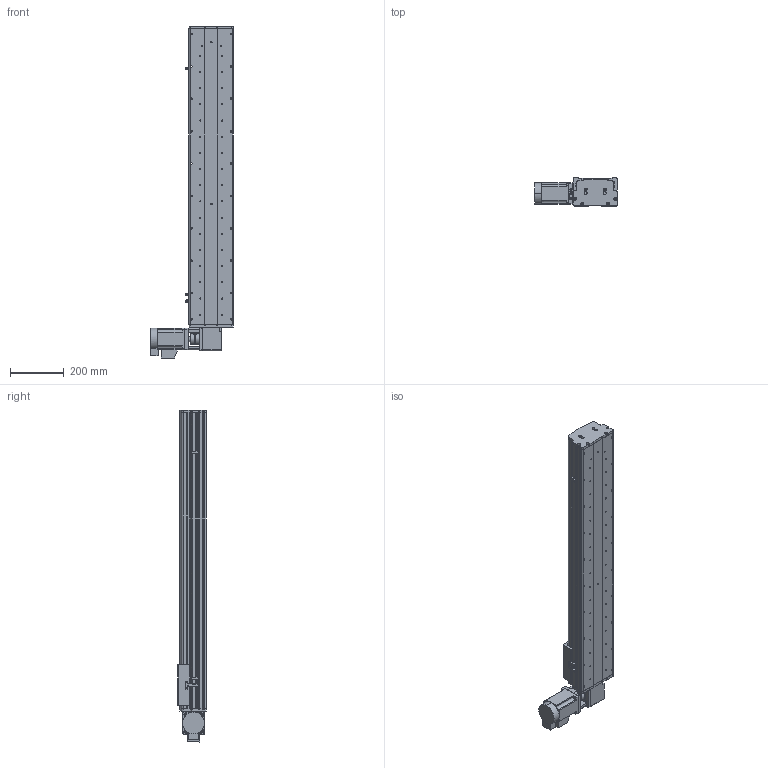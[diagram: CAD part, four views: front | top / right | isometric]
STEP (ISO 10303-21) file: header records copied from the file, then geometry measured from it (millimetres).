
FILE_DESCRIPTION (( 'STEP AP214' ), '1' );
FILE_NAME ('KSD165B-S850-MRT-CM .STEP', '2017-10-17T01:25:51', ( '微软用户' ), ( '微软中国' ), 'SwSTEP 2.0', 'SolidWorks 2014', '' );
FILE_SCHEMA (( 'AUTOMOTIVE_DESIGN' ));
Length unit declared in the file: millimetre
Products named in the file (16): 165宽马达安装板同步带左-改; KSD165模组-同步带防尘盖1-850行程-最新版; KSD165模组同步带底板-850行程-最新; 拸秶雄ん750W侜督萇儂; 165宽安装板同步带带电机座750W; C39ㄜ1419WP; U倰嫖萇假蚾璃; U倰嫖萇EEㄜSX672; 覜茼え68遵圉猾敕; KSD165模组-同步带-防撞垫2; KSD165模组同步带-防撞垫1; KSD165耀郪-ヶ傷啣1-肮祭湍; KSD165模组-后端板1-同步带; 130宽马达安装板1-带电机座750W（1）; KSD165模组-同步带滑动座-最新版; KSD165B-S850-MRT-CM 
Assembly tree (19 placements, depth 2):
  KSD165B-S850-MRT-CM 
    KSD165模组-同步带滑动座-最新版
    130宽马达安装板1-带电机座750W（1）
    KSD165模组-后端板1-同步带
    KSD165耀郪-ヶ傷啣1-肮祭湍
    KSD165模组同步带-防撞垫1
    KSD165模组-同步带-防撞垫2
    覜茼え68遵圉猾敕
    U倰嫖萇EEㄜSX672  x3
    U倰嫖萇假蚾璃  x3
    C39ㄜ1419WP
    165宽安装板同步带带电机座750W
    拸秶雄ん750W侜督萇儂
    KSD165模组同步带底板-850行程-最新
    KSD165模组-同步带防尘盖1-850行程-最新版
    165宽马达安装板同步带左-改
Bounding box: 307.5 x 104 x 1231.06 mm (x, y, z)
Volume: 7206828.6 mm3; surface area: 1623413.8 mm2
Topology: 20 solids, 21 shells, 1496 faces, 4158 edges, 2693 vertices
Faces by surface type: cylinder 821, plane 581, cone 94
Entity records: 47563 total; most frequent: CARTESIAN_POINT 9979, DIRECTION 7396, ORIENTED_EDGE 6968, EDGE_CURVE 3484, AXIS2_PLACEMENT_3D 2814, VERTEX_POINT 2285, LINE 1768, VECTOR 1768
